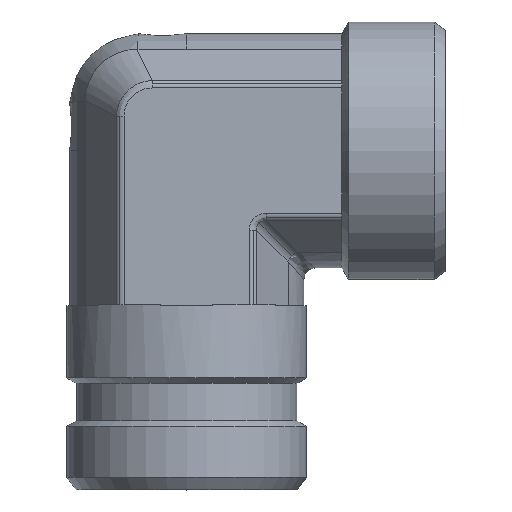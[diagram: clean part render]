
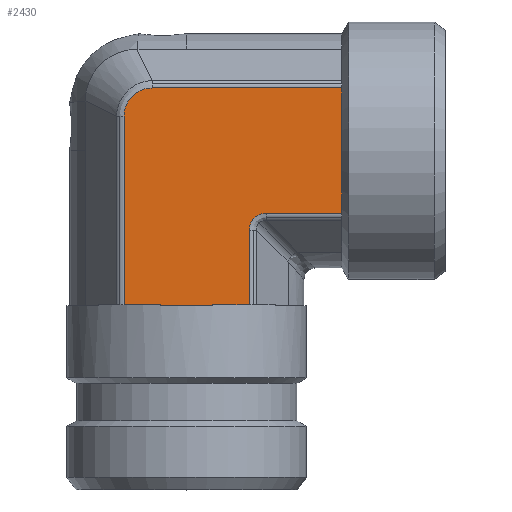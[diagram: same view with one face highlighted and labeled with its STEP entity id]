
A CAD part, top view. The second image highlights one B-rep face of the part: STEP entity #2430.
In plain terms, the highlighted planar face has unit normal (0, 0, 1) as drawn and (0, -1, 0) by its records, which use the part's own axes.
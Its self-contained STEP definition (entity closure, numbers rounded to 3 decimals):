
#361=CARTESIAN_POINT('',(9.429,-20.375,10.897));
#362=VERTEX_POINT('',#361);
#370=CARTESIAN_POINT('',(22.35,-20.375,10.897));
#371=VERTEX_POINT('',#370);
#372=CARTESIAN_POINT('',(9.429,-20.375,10.897));
#373=DIRECTION('',(1.0,0.0,0.0));
#374=VECTOR('',#373,12.921);
#375=LINE('',#372,#374);
#376=EDGE_CURVE('',#362,#371,#375,.T.);
#443=CARTESIAN_POINT('',(-15.397,-20.375,-5.976));
#444=VERTEX_POINT('',#443);
#452=CARTESIAN_POINT('',(-15.397,-20.375,27.0));
#453=VERTEX_POINT('',#452);
#454=CARTESIAN_POINT('',(-15.397,-20.375,-5.976));
#455=DIRECTION('',(0.0,0.0,1.0));
#456=VECTOR('',#455,32.976);
#457=LINE('',#454,#456);
#458=EDGE_CURVE('',#444,#453,#457,.T.);
#845=CARTESIAN_POINT('',(22.35,-20.375,4.495));
#846=VERTEX_POINT('',#845);
#854=CARTESIAN_POINT('',(22.5,-20.375,4.495));
#855=VERTEX_POINT('',#854);
#856=CARTESIAN_POINT('',(22.5,-20.375,4.495));
#857=DIRECTION('',(-1.0,0.0,0.));
#858=VECTOR('',#857,0.15);
#859=LINE('',#856,#858);
#860=EDGE_CURVE('',#855,#846,#859,.T.);
#862=CARTESIAN_POINT('',(22.5,-20.375,-4.495));
#863=VERTEX_POINT('',#862);
#871=CARTESIAN_POINT('',(22.35,-20.375,-4.495));
#872=VERTEX_POINT('',#871);
#873=CARTESIAN_POINT('',(22.35,-20.375,-4.495));
#874=DIRECTION('',(1.0,0.0,0.));
#875=VECTOR('',#874,0.15);
#876=LINE('',#873,#875);
#877=EDGE_CURVE('',#872,#863,#876,.T.);
#1692=CARTESIAN_POINT('',(-4.5,-20.375,27.0));
#1693=VERTEX_POINT('',#1692);
#1694=CARTESIAN_POINT('',(-4.5,-20.375,27.0));
#1695=DIRECTION('',(-1.0,0.0,0.0));
#1696=VECTOR('',#1695,10.897);
#1697=LINE('',#1694,#1696);
#1698=EDGE_CURVE('',#1693,#453,#1697,.T.);
#2122=CARTESIAN_POINT('',(22.35,-20.375,-10.897));
#2123=VERTEX_POINT('',#2122);
#2124=CARTESIAN_POINT('',(22.35,-20.375,-10.897));
#2125=DIRECTION('',(0.0,0.0,1.0));
#2126=VECTOR('',#2125,6.402);
#2127=LINE('',#2124,#2126);
#2128=EDGE_CURVE('',#2123,#872,#2127,.T.);
#2162=CARTESIAN_POINT('',(22.35,-20.375,4.495));
#2163=DIRECTION('',(0.0,0.0,1.0));
#2164=VECTOR('',#2163,6.402);
#2165=LINE('',#2162,#2164);
#2166=EDGE_CURVE('',#846,#371,#2165,.T.);
#2355=CARTESIAN_POINT('',(-10.476,-20.375,-10.897));
#2356=VERTEX_POINT('',#2355);
#2357=CARTESIAN_POINT('',(22.35,-20.375,-10.897));
#2358=DIRECTION('',(-1.0,0.0,0.0));
#2359=VECTOR('',#2358,32.826);
#2360=LINE('',#2357,#2359);
#2361=EDGE_CURVE('',#2123,#2356,#2360,.T.);
#2373=CARTESIAN_POINT('',(-4.5,-20.375,-3.175));
#2374=DIRECTION('',(0.0,-1.0,0.0));
#2375=DIRECTION('',(0.0,0.0,-1.0));
#2376=AXIS2_PLACEMENT_3D('',#2373,#2374,#2375);
#2377=PLANE('',#2376);
#2378=ORIENTED_EDGE('',*,*,#2128,.T.);
#2379=ORIENTED_EDGE('',*,*,#877,.T.);
#2380=CARTESIAN_POINT('',(22.5,-20.375,-4.495));
#2381=DIRECTION('',(0.0,0.0,1.0));
#2382=VECTOR('',#2381,8.991);
#2383=LINE('',#2380,#2382);
#2384=EDGE_CURVE('',#863,#855,#2383,.T.);
#2385=ORIENTED_EDGE('',*,*,#2384,.T.);
#2386=ORIENTED_EDGE('',*,*,#860,.T.);
#2387=ORIENTED_EDGE('',*,*,#2166,.T.);
#2388=ORIENTED_EDGE('',*,*,#376,.F.);
#2389=CARTESIAN_POINT('',(6.397,-20.375,13.929));
#2390=VERTEX_POINT('',#2389);
#2391=CARTESIAN_POINT('',(10.439,-20.375,14.939));
#2392=DIRECTION('',(0.,-1.,0.));
#2393=DIRECTION('',(-0.707,0.,-0.707));
#2394=AXIS2_PLACEMENT_3D('',#2391,#2392,#2393);
#2395=ELLIPSE('',#2394,4.518,3.5);
#2396=EDGE_CURVE('',#2390,#362,#2395,.T.);
#2397=ORIENTED_EDGE('',*,*,#2396,.F.);
#2398=CARTESIAN_POINT('',(6.397,-20.375,27.0));
#2399=VERTEX_POINT('',#2398);
#2400=CARTESIAN_POINT('',(6.397,-20.375,27.0));
#2401=DIRECTION('',(0.0,0.0,-1.0));
#2402=VECTOR('',#2401,13.071);
#2403=LINE('',#2400,#2402);
#2404=EDGE_CURVE('',#2399,#2390,#2403,.T.);
#2405=ORIENTED_EDGE('',*,*,#2404,.F.);
#2406=CARTESIAN_POINT('',(6.397,-20.375,27.0));
#2407=DIRECTION('',(-1.0,0.0,0.0));
#2408=VECTOR('',#2407,10.897);
#2409=LINE('',#2406,#2408);
#2410=EDGE_CURVE('',#2399,#1693,#2409,.T.);
#2411=ORIENTED_EDGE('',*,*,#2410,.T.);
#2412=ORIENTED_EDGE('',*,*,#1698,.T.);
#2413=ORIENTED_EDGE('',*,*,#458,.F.);
#2414=CARTESIAN_POINT('',(-15.397,-20.375,-5.976));
#2415=CARTESIAN_POINT('',(-15.397,-20.375,-6.296));
#2416=CARTESIAN_POINT('',(-15.365,-20.375,-6.619));
#2417=CARTESIAN_POINT('',(-15.2,-20.375,-7.443));
#2418=CARTESIAN_POINT('',(-15.019,-20.375,-7.929));
#2419=CARTESIAN_POINT('',(-14.359,-20.375,-9.1));
#2420=CARTESIAN_POINT('',(-13.773,-20.375,-9.713));
#2421=CARTESIAN_POINT('',(-12.293,-20.375,-10.637));
#2422=CARTESIAN_POINT('',(-11.385,-20.375,-10.897));
#2423=CARTESIAN_POINT('',(-10.476,-20.375,-10.897));
#2424=B_SPLINE_CURVE_WITH_KNOTS('',3,(#2414,#2415,#2416,#2417,#2418,#2419,#2420,#2421,#2422,#2423),.UNSPECIFIED.,.F.,.U.,(4,2,2,2,4),(-7.686,-6.725,-5.188,-2.729,0.0),.UNSPECIFIED.);
#2425=EDGE_CURVE('',#2356,#444,#2424,.F.);
#2426=ORIENTED_EDGE('',*,*,#2425,.F.);
#2427=ORIENTED_EDGE('',*,*,#2361,.F.);
#2428=EDGE_LOOP('',(#2378,#2379,#2385,#2386,#2387,#2388,#2397,#2405,#2411,#2412,#2413,#2426,#2427));
#2429=FACE_OUTER_BOUND('',#2428,.T.);
#2430=ADVANCED_FACE('',(#2429),#2377,.T.);
